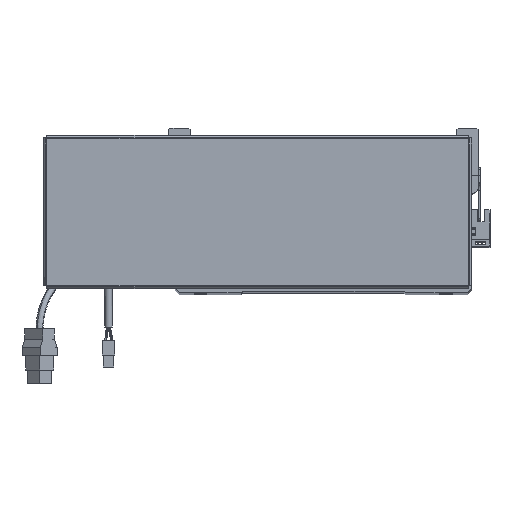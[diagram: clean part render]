
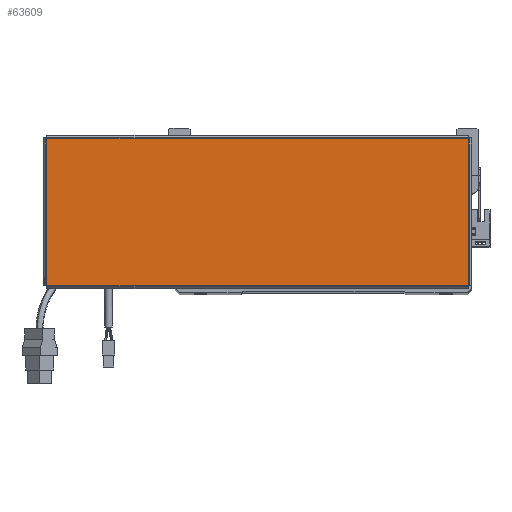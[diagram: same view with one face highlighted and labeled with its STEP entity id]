
A CAD part, top view. The second image highlights one B-rep face of the part: STEP entity #63609.
In plain terms, the highlighted planar face has unit normal (0, 0, 1).
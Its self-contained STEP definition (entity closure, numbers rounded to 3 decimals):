
#1480 = EDGE_LOOP ( 'NONE', ( #51717, #22152, #59748, #21052 ) ) ;
#2331 = DIRECTION ( 'NONE',  ( 0., 1., 0. ) ) ;
#3735 = LINE ( 'NONE', #45992, #54366 ) ;
#5073 = VECTOR ( 'NONE', #2331, 1000. ) ;
#5075 = EDGE_CURVE ( 'NONE', #21166, #53310, #3735, .T. ) ;
#6894 = LINE ( 'NONE', #53893, #52703 ) ;
#12074 = EDGE_CURVE ( 'NONE', #38232, #13809, #28264, .T. ) ;
#13809 = VERTEX_POINT ( 'NONE', #38090 ) ;
#17407 = CARTESIAN_POINT ( 'NONE',  ( 156.513, -54.793, 0. ) ) ;
#17823 = DIRECTION ( 'NONE',  ( 1., 0., 0. ) ) ;
#21052 = ORIENTED_EDGE ( 'NONE', *, *, #57818, .T. ) ;
#21166 = VERTEX_POINT ( 'NONE', #40421 ) ;
#21918 = CARTESIAN_POINT ( 'NONE',  ( -156.513, -54.763, 0. ) ) ;
#22152 = ORIENTED_EDGE ( 'NONE', *, *, #23142, .T. ) ;
#23142 = EDGE_CURVE ( 'NONE', #13809, #21166, #49163, .T. ) ;
#23380 = DIRECTION ( 'NONE',  ( 1., 0., 0. ) ) ;
#26892 = AXIS2_PLACEMENT_3D ( 'NONE', #54667, #49641, #23380 ) ;
#28264 = LINE ( 'NONE', #34295, #44606 ) ;
#34295 = CARTESIAN_POINT ( 'NONE',  ( -156.543, -54.763, 0. ) ) ;
#35954 = DIRECTION ( 'NONE',  ( -1., 0., 0. ) ) ;
#38090 = CARTESIAN_POINT ( 'NONE',  ( 156.513, -54.763, 0. ) ) ;
#38232 = VERTEX_POINT ( 'NONE', #21918 ) ;
#40421 = CARTESIAN_POINT ( 'NONE',  ( 156.513, 54.763, 0. ) ) ;
#43373 = DIRECTION ( 'NONE',  ( 0., -1., 0. ) ) ;
#44606 = VECTOR ( 'NONE', #17823, 1000. ) ;
#45992 = CARTESIAN_POINT ( 'NONE',  ( 156.543, 54.763, 0. ) ) ;
#49163 = LINE ( 'NONE', #17407, #5073 ) ;
#49641 = DIRECTION ( 'NONE',  ( 0., 0., 1. ) ) ;
#51717 = ORIENTED_EDGE ( 'NONE', *, *, #12074, .T. ) ;
#52703 = VECTOR ( 'NONE', #43373, 1000. ) ;
#53310 = VERTEX_POINT ( 'NONE', #67486 ) ;
#53893 = CARTESIAN_POINT ( 'NONE',  ( -156.513, 54.793, 0. ) ) ;
#54366 = VECTOR ( 'NONE', #35954, 1000. ) ;
#54667 = CARTESIAN_POINT ( 'NONE',  ( 0., 0., 0. ) ) ;
#55119 = PLANE ( 'NONE',  #26892 ) ;
#57818 = EDGE_CURVE ( 'NONE', #53310, #38232, #6894, .T. ) ;
#58091 = FACE_OUTER_BOUND ( 'NONE', #1480, .T. ) ;
#59748 = ORIENTED_EDGE ( 'NONE', *, *, #5075, .T. ) ;
#63609 = ADVANCED_FACE ( 'NONE', ( #58091 ), #55119, .T. ) ;
#67486 = CARTESIAN_POINT ( 'NONE',  ( -156.513, 54.763, 0. ) ) ;
